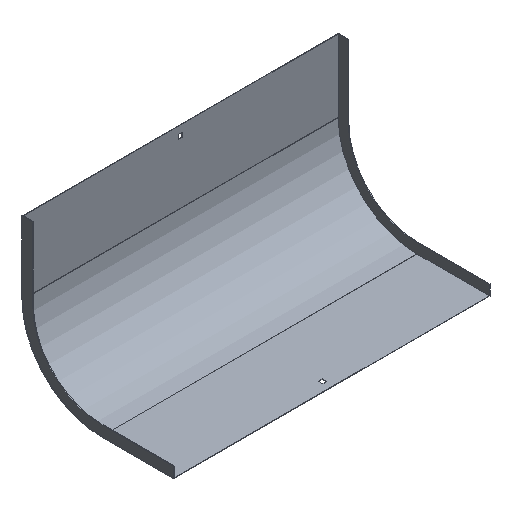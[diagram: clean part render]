
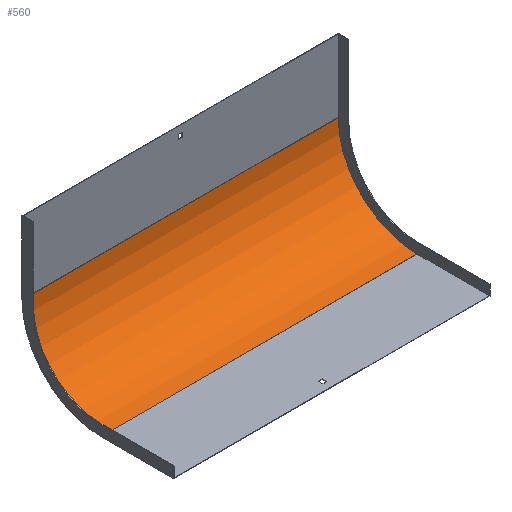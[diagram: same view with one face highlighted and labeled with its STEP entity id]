
A CAD part, isometric view. The second image highlights one B-rep face of the part: STEP entity #560.
In plain terms, the highlighted cylindrical face has radius 125 mm (diameter 250 mm), a partial arc.
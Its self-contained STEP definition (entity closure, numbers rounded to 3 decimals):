
#8 = CARTESIAN_POINT ( 'NONE',  ( 251., -126., -115. ) ) ;
#25 = CYLINDRICAL_SURFACE ( 'NONE', #601, 125. ) ;
#32 = CARTESIAN_POINT ( 'NONE',  ( 250., -1., -115. ) ) ;
#65 = CARTESIAN_POINT ( 'NONE',  ( 251., -1., -115. ) ) ;
#67 = DIRECTION ( 'NONE',  ( 0., 0., 1. ) ) ;
#75 = CARTESIAN_POINT ( 'NONE',  ( 251., -126., -240. ) ) ;
#89 = CARTESIAN_POINT ( 'NONE',  ( -250., -1., -115. ) ) ;
#108 = EDGE_CURVE ( 'NONE', #129, #633, #796, .T. ) ;
#127 = EDGE_CURVE ( 'NONE', #129, #181, #743, .T. ) ;
#129 = VERTEX_POINT ( 'NONE', #692 ) ;
#133 = ORIENTED_EDGE ( 'NONE', *, *, #127, .F. ) ;
#134 = DIRECTION ( 'NONE',  ( -1., 0., 0. ) ) ;
#135 = CIRCLE ( 'NONE', #561, 125. ) ;
#137 = VERTEX_POINT ( 'NONE', #89 ) ;
#153 = AXIS2_PLACEMENT_3D ( 'NONE', #224, #156, #753 ) ;
#156 = DIRECTION ( 'NONE',  ( 1., 0., 0. ) ) ;
#173 = CARTESIAN_POINT ( 'NONE',  ( -250., -126., -240. ) ) ;
#181 = VERTEX_POINT ( 'NONE', #173 ) ;
#206 = VECTOR ( 'NONE', #208, 1000. ) ;
#208 = DIRECTION ( 'NONE',  ( -1., 0., 0. ) ) ;
#224 = CARTESIAN_POINT ( 'NONE',  ( 250., -126., -115. ) ) ;
#244 = ORIENTED_EDGE ( 'NONE', *, *, #108, .T. ) ;
#259 = DIRECTION ( 'NONE',  ( 1., 0., 0. ) ) ;
#261 = DIRECTION ( 'NONE',  ( -1., 0., 0. ) ) ;
#287 = DIRECTION ( 'NONE',  ( 0., 0., 1. ) ) ;
#393 = VECTOR ( 'NONE', #134, 1000. ) ;
#399 = CARTESIAN_POINT ( 'NONE',  ( -250., -126., -115. ) ) ;
#480 = EDGE_CURVE ( 'NONE', #633, #137, #744, .T. ) ;
#485 = EDGE_CURVE ( 'NONE', #181, #137, #135, .T. ) ;
#560 = ADVANCED_FACE ( 'NONE', ( #725 ), #25, .F. ) ;
#561 = AXIS2_PLACEMENT_3D ( 'NONE', #399, #259, #67 ) ;
#601 = AXIS2_PLACEMENT_3D ( 'NONE', #8, #261, #287 ) ;
#633 = VERTEX_POINT ( 'NONE', #32 ) ;
#643 = EDGE_LOOP ( 'NONE', ( #724, #133, #244, #717 ) ) ;
#692 = CARTESIAN_POINT ( 'NONE',  ( 250., -126., -240. ) ) ;
#717 = ORIENTED_EDGE ( 'NONE', *, *, #480, .T. ) ;
#724 = ORIENTED_EDGE ( 'NONE', *, *, #485, .F. ) ;
#725 = FACE_OUTER_BOUND ( 'NONE', #643, .T. ) ;
#743 = LINE ( 'NONE', #75, #206 ) ;
#744 = LINE ( 'NONE', #65, #393 ) ;
#753 = DIRECTION ( 'NONE',  ( 0., 0., 1. ) ) ;
#796 = CIRCLE ( 'NONE', #153, 125. ) ;
